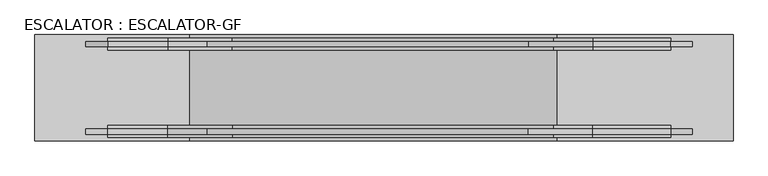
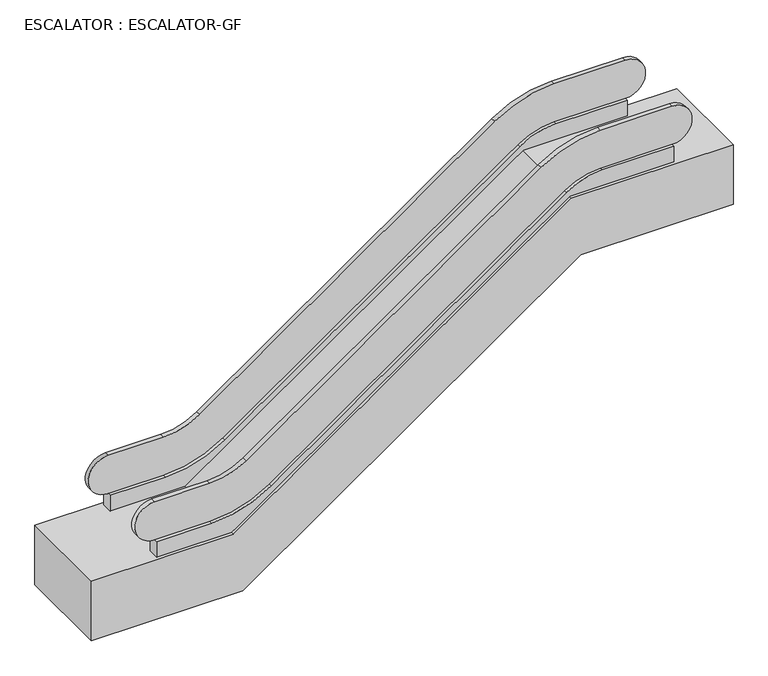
"""IFC4 building model written with IfcOpenShell, lengths in millimetres: proxy geometry, ESCALATOR : ESCALATOR-GF."""

from ifc_helpers import new_model, si_unit, point, frame, frame_2d, origin, place, context, project, spatial, polyline, circle_curve, trimmed, segment, composite_curve, outline, extrude, source, transform, mapped, element, save


def escalator_escalator_gf_9d4ecd68(model_context):
    return source(origin(), model_context, "Body", "SweptSolid", [
        extrude(outline(composite_curve([segment(trimmed(circle_curve(frame_2d((2400.0, -9713.9266167)), 1637.0), [point((1059.093828, -8774.9166924))], [point((763.0, -9713.9266167))], True, "CARTESIAN"), True, "CONTINUOUS"), segment(polyline([(763.0, -9713.9266167), (763.0, -10588.6153082), (500.0, -10588.6153082), (500.0, -9398.970123), (4250.0, -4043.970123), (4250.0, -2394.6153082), (4513.0, -2394.6153082), (4513.0, -3527.4131211)]), True, "CONTINUOUS"), segment(trimmed(circle_curve(frame_2d((3513.0, -3527.4131211)), 1000.0), [point((4513.0, -3527.4131211))], [point((4332.1241124, -4101.0294463))], False, "CARTESIAN"), True, "CONTINUOUS"), segment(polyline([(4332.1241124, -4101.0294463), (1059.093828, -8774.9166924)]), True, "CONTINUOUS")], self_intersect=False)), frame((0.0, 550.0, 0.0), z_axis=(0.0, 1.0, 0.0), x_axis=(0.0, 0.0, 1.0)), (0.0, 0.0, 1.0), 175.0),
        extrude(outline(composite_curve([segment(polyline([(5150.0, -2394.6153082), (5150.0, -3527.4131211)]), True, "CONTINUOUS"), segment(trimmed(circle_curve(frame_2d((3513.0, -3527.4131211)), 1637.0), [point((5150.0, -3527.4131211))], [point((4853.906172, -4466.4230455))], False, "CARTESIAN"), True, "CONTINUOUS"), segment(polyline([(4853.906172, -4466.4230455), (1580.8758876, -9140.3102915)]), True, "CONTINUOUS"), segment(trimmed(circle_curve(frame_2d((2400.0, -9713.9266167)), 1000.0), [point((1580.8758876, -9140.3102915))], [point((1400.0, -9713.9266167))], True, "CARTESIAN"), True, "CONTINUOUS"), segment(polyline([(1400.0, -9713.9266167), (1400.0, -10588.6153082)]), True, "CONTINUOUS"), segment(trimmed(circle_curve(frame_2d((1081.5, -10588.6153082)), 318.5), [point((1400.0, -10588.6153082))], [point((763.0, -10588.6153082))], False, "CARTESIAN"), True, "CONTINUOUS"), segment(polyline([(763.0, -10588.6153082), (763.0, -9713.9266167)]), True, "CONTINUOUS"), segment(trimmed(circle_curve(frame_2d((2400.0, -9713.9266167)), 1637.0), [point((763.0, -9713.9266167))], [point((1059.093828, -8774.9166924))], False, "CARTESIAN"), True, "CONTINUOUS"), segment(polyline([(1059.093828, -8774.9166924), (4332.1241124, -4101.0294463)]), True, "CONTINUOUS"), segment(trimmed(circle_curve(frame_2d((3513.0, -3527.4131211)), 1000.0), [point((4332.1241124, -4101.0294463))], [point((4513.0, -3527.4131211))], True, "CARTESIAN"), True, "CONTINUOUS"), segment(polyline([(4513.0, -3527.4131211), (4513.0, -2394.6153082)]), True, "CONTINUOUS"), segment(trimmed(circle_curve(frame_2d((4831.5, -2394.6153082)), 318.5), [point((4513.0, -2394.6153082))], [point((5150.0, -2394.6153082))], False, "CARTESIAN"), True, "CONTINUOUS")], self_intersect=False)), frame((0.0, 600.0, 0.0), z_axis=(0.0, 1.0, 0.0), x_axis=(0.0, 0.0, 1.0)), (0.0, 0.0, 1.0), 75.0),
        extrude(outline(composite_curve([segment(polyline([(5150.0, -2394.6153082), (5150.0, -3527.4131211)]), True, "CONTINUOUS"), segment(trimmed(circle_curve(frame_2d((3513.0, -3527.4131211)), 1637.0), [point((5150.0, -3527.4131211))], [point((4853.906172, -4466.4230455))], False, "CARTESIAN"), True, "CONTINUOUS"), segment(polyline([(4853.906172, -4466.4230455), (1580.8758876, -9140.3102915)]), True, "CONTINUOUS"), segment(trimmed(circle_curve(frame_2d((2400.0, -9713.9266167)), 1000.0), [point((1580.8758876, -9140.3102915))], [point((1400.0, -9713.9266167))], True, "CARTESIAN"), True, "CONTINUOUS"), segment(polyline([(1400.0, -9713.9266167), (1400.0, -10588.6153082)]), True, "CONTINUOUS"), segment(trimmed(circle_curve(frame_2d((1081.5, -10588.6153082)), 318.5), [point((1400.0, -10588.6153082))], [point((763.0, -10588.6153082))], False, "CARTESIAN"), True, "CONTINUOUS"), segment(polyline([(763.0, -10588.6153082), (763.0, -9713.9266167)]), True, "CONTINUOUS"), segment(trimmed(circle_curve(frame_2d((2400.0, -9713.9266167)), 1637.0), [point((763.0, -9713.9266167))], [point((1059.093828, -8774.9166924))], False, "CARTESIAN"), True, "CONTINUOUS"), segment(polyline([(1059.093828, -8774.9166924), (4332.1241124, -4101.0294463)]), True, "CONTINUOUS"), segment(trimmed(circle_curve(frame_2d((3513.0, -3527.4131211)), 1000.0), [point((4332.1241124, -4101.0294463))], [point((4513.0, -3527.4131211))], True, "CARTESIAN"), True, "CONTINUOUS"), segment(polyline([(4513.0, -3527.4131211), (4513.0, -2394.6153082)]), True, "CONTINUOUS"), segment(trimmed(circle_curve(frame_2d((4831.5, -2394.6153082)), 318.5), [point((4513.0, -2394.6153082))], [point((5150.0, -2394.6153082))], False, "CARTESIAN"), True, "CONTINUOUS")], self_intersect=False)), frame((0.0, -675.0, 0.0), z_axis=(0.0, 1.0, 0.0), x_axis=(0.0, 0.0, 1.0)), (0.0, 0.0, 1.0), 75.0),
        extrude(outline(composite_curve([segment(trimmed(circle_curve(frame_2d((2400.0, -9713.9266167)), 1637.0), [point((1059.093828, -8774.9166924))], [point((763.0, -9713.9266167))], True, "CARTESIAN"), True, "CONTINUOUS"), segment(polyline([(763.0, -9713.9266167), (763.0, -10588.6153082), (500.0, -10588.6153082), (500.0, -9398.970123), (4250.0, -4043.970123), (4250.0, -2394.6153082), (4513.0, -2394.6153082), (4513.0, -3527.4131211)]), True, "CONTINUOUS"), segment(trimmed(circle_curve(frame_2d((3513.0, -3527.4131211)), 1000.0), [point((4513.0, -3527.4131211))], [point((4332.1241124, -4101.0294463))], False, "CARTESIAN"), True, "CONTINUOUS"), segment(polyline([(4332.1241124, -4101.0294463), (1059.093828, -8774.9166924)]), True, "CONTINUOUS")], self_intersect=False)), frame((0.0, -725.0, 0.0), z_axis=(0.0, 1.0, 0.0), x_axis=(0.0, 0.0, 1.0)), (0.0, 0.0, 1.0), 175.0),
        extrude(outline(polyline([(4250.0, -1484.1153082), (4250.0, -4043.970123), (500.0, -9398.970123), (500.0, -11648.970123), (-500.0, -11648.970123), (-500.0, -9249.2604934), (3250.0, -3894.2604934), (3250.0, -1484.1153082), (4250.0, -1484.1153082)])), frame((0.0, -775.0, 0.0), z_axis=(0.0, 1.0, 0.0), x_axis=(0.0, 0.0, 1.0)), (0.0, 0.0, 1.0), 1550.0),
    ])


if __name__ == "__main__":
    model = new_model("IFC4")
    model_context = context("Model", 3, world=origin())
    ifc_project = project(units=[si_unit("LENGTHUNIT", "METRE", prefix="MILLI")], contexts=[model_context])
    site = spatial("IfcSite", under=ifc_project)
    building = spatial("IfcBuilding", under=site)
    placement = place(None, origin())
    escalator_escalator_gf_shape = escalator_escalator_gf_9d4ecd68(model_context)
    element("IfcBuildingElementProxy", 1, Name="ESCALATOR : ESCALATOR-GF", ObjectType="ESCALATOR : ESCALATOR-GF", at=placement, inside=building, context=model_context, shape_type="MappedRepresentation", body=[
        mapped(escalator_escalator_gf_shape, transform((0.0, 0.0, 0.0), x_axis=(1.0, 0.0, 0.0), y_axis=(0.0, 1.0, 0.0), z_axis=(0.0, 0.0, 1.0))),
    ])
    save(model, "model.ifc")
